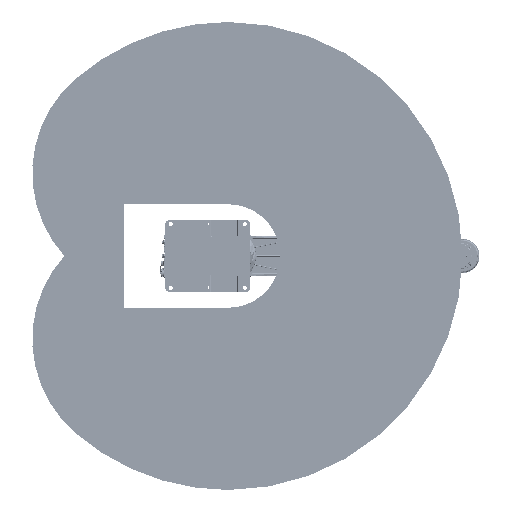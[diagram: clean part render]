
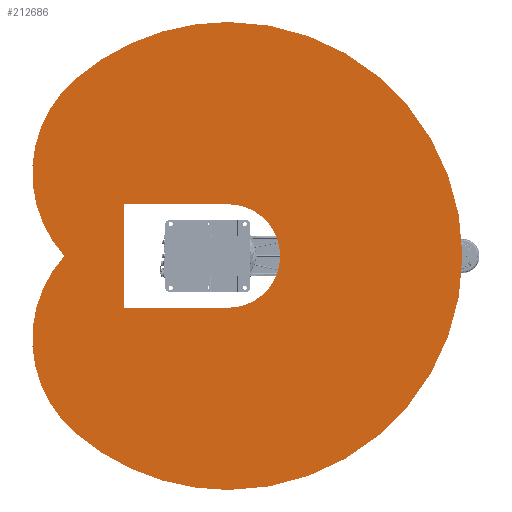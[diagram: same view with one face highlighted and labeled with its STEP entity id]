
A CAD part, front view. The second image highlights one B-rep face of the part: STEP entity #212686.
In plain terms, the highlighted planar face has unit normal (0, -1, 0).
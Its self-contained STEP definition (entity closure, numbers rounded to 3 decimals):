
#3238 = VERTEX_POINT ( 'NONE', #81069 ) ;
#4153 = CARTESIAN_POINT ( 'NONE',  ( -105.937, -92.101, 0. ) ) ;
#14752 = CARTESIAN_POINT ( 'NONE',  ( -368.36, -92.101, -301.884 ) ) ;
#17326 = CARTESIAN_POINT ( 'NONE',  ( -105.937, -92.101, 0. ) ) ;
#25404 = AXIS2_PLACEMENT_3D ( 'NONE', #65834, #229182, #89350 ) ;
#27630 = DIRECTION ( 'NONE',  ( 0., 0., 1. ) ) ;
#35055 = EDGE_CURVE ( 'NONE', #251455, #134189, #91767, .T. ) ;
#35699 = CARTESIAN_POINT ( 'NONE',  ( -105.937, -92.101, -187.789 ) ) ;
#36364 = VERTEX_POINT ( 'NONE', #61431 ) ;
#38213 = DIRECTION ( 'NONE',  ( 0., 0., 1. ) ) ;
#41614 = ORIENTED_EDGE ( 'NONE', *, *, #145350, .F. ) ;
#45319 = CARTESIAN_POINT ( 'NONE',  ( -368.36, -92.101, 301.884 ) ) ;
#47221 = VERTEX_POINT ( 'NONE', #273596 ) ;
#50716 = ORIENTED_EDGE ( 'NONE', *, *, #169808, .F. ) ;
#53095 = CARTESIAN_POINT ( 'NONE',  ( -663.587, -92.101, 641.503 ) ) ;
#53856 = CARTESIAN_POINT ( 'NONE',  ( -663.587, -92.101, -641.503 ) ) ;
#61431 = CARTESIAN_POINT ( 'NONE',  ( -702.076, -92.101, 0. ) ) ;
#61574 = ORIENTED_EDGE ( 'NONE', *, *, #35055, .F. ) ;
#64241 = DIRECTION ( 'NONE',  ( 0., 1., 0. ) ) ;
#65834 = CARTESIAN_POINT ( 'NONE',  ( -105.937, -92.101, 0. ) ) ;
#68774 = DIRECTION ( 'NONE',  ( 0., 0., 1. ) ) ;
#78492 = ORIENTED_EDGE ( 'NONE', *, *, #97746, .F. ) ;
#81069 = CARTESIAN_POINT ( 'NONE',  ( -105.937, -92.101, 187.789 ) ) ;
#83000 = EDGE_CURVE ( 'NONE', #3238, #116733, #153560, .T. ) ;
#83400 = CARTESIAN_POINT ( 'NONE',  ( -485.937, -92.101, 0. ) ) ;
#89350 = DIRECTION ( 'NONE',  ( 0., 0., 1. ) ) ;
#91767 = CIRCLE ( 'NONE', #132583, 850. ) ;
#97746 = EDGE_CURVE ( 'NONE', #276854, #116733, #270812, .T. ) ;
#99105 = DIRECTION ( 'NONE',  ( 1., 0., 0. ) ) ;
#101811 = EDGE_CURVE ( 'NONE', #36364, #251455, #258908, .T. ) ;
#109504 = VERTEX_POINT ( 'NONE', #287817 ) ;
#110178 = PLANE ( 'NONE',  #239970 ) ;
#114013 = CARTESIAN_POINT ( 'NONE',  ( -105.937, -92.101, 0. ) ) ;
#115540 = VECTOR ( 'NONE', #99105, 1000. ) ;
#116733 = VERTEX_POINT ( 'NONE', #35699 ) ;
#118112 = VERTEX_POINT ( 'NONE', #53856 ) ;
#118314 = FACE_OUTER_BOUND ( 'NONE', #170071, .T. ) ;
#121631 = ORIENTED_EDGE ( 'NONE', *, *, #132282, .T. ) ;
#122525 = CARTESIAN_POINT ( 'NONE',  ( -105.937, -92.101, 187.789 ) ) ;
#128548 = ORIENTED_EDGE ( 'NONE', *, *, #247022, .F. ) ;
#130524 = DIRECTION ( 'NONE',  ( 0., 1., 0. ) ) ;
#132282 = EDGE_CURVE ( 'NONE', #47221, #3238, #185100, .T. ) ;
#132583 = AXIS2_PLACEMENT_3D ( 'NONE', #4153, #167484, #27630 ) ;
#133769 = DIRECTION ( 'NONE',  ( 1., 0., 0. ) ) ;
#134189 = VERTEX_POINT ( 'NONE', #222882 ) ;
#137635 = DIRECTION ( 'NONE',  ( 0., 0., 1. ) ) ;
#138747 = EDGE_CURVE ( 'NONE', #276854, #47221, #230198, .T. ) ;
#142023 = ORIENTED_EDGE ( 'NONE', *, *, #138747, .T. ) ;
#145350 = EDGE_CURVE ( 'NONE', #109504, #118112, #291683, .T. ) ;
#153560 = CIRCLE ( 'NONE', #189515, 187.789 ) ;
#155126 = CIRCLE ( 'NONE', #241362, 450. ) ;
#167484 = DIRECTION ( 'NONE',  ( 0., 1., 0. ) ) ;
#169808 = EDGE_CURVE ( 'NONE', #134189, #109504, #209644, .T. ) ;
#170071 = EDGE_LOOP ( 'NONE', ( #61574, #219058, #128548, #41614, #50716 ) ) ;
#173044 = AXIS2_PLACEMENT_3D ( 'NONE', #270434, #130524, #293989 ) ;
#178105 = DIRECTION ( 'NONE',  ( 0., 1., 0. ) ) ;
#185100 = LINE ( 'NONE', #122525, #115540 ) ;
#189515 = AXIS2_PLACEMENT_3D ( 'NONE', #114013, #277504, #137635 ) ;
#208682 = DIRECTION ( 'NONE',  ( 0., 1., 0. ) ) ;
#208767 = VECTOR ( 'NONE', #133769, 1000. ) ;
#209644 = CIRCLE ( 'NONE', #25404, 850. ) ;
#212686 = ADVANCED_FACE ( 'NONE', ( #242607, #118314 ), #110178, .F. ) ;
#219058 = ORIENTED_EDGE ( 'NONE', *, *, #101811, .F. ) ;
#222882 = CARTESIAN_POINT ( 'NONE',  ( -105.937, -92.101, 850. ) ) ;
#224247 = ORIENTED_EDGE ( 'NONE', *, *, #83000, .T. ) ;
#227616 = DIRECTION ( 'NONE',  ( 0., 0., 1. ) ) ;
#229182 = DIRECTION ( 'NONE',  ( 0., 1., 0. ) ) ;
#230198 = LINE ( 'NONE', #83400, #285068 ) ;
#239970 = AXIS2_PLACEMENT_3D ( 'NONE', #17326, #64241, #227616 ) ;
#241362 = AXIS2_PLACEMENT_3D ( 'NONE', #14752, #178105, #38213 ) ;
#242607 = FACE_BOUND ( 'NONE', #290861, .T. ) ;
#246726 = DIRECTION ( 'NONE',  ( 0., 0., 1. ) ) ;
#247022 = EDGE_CURVE ( 'NONE', #118112, #36364, #155126, .T. ) ;
#251455 = VERTEX_POINT ( 'NONE', #53095 ) ;
#258908 = CIRCLE ( 'NONE', #278495, 450. ) ;
#270385 = CARTESIAN_POINT ( 'NONE',  ( -485.937, -92.101, -187.789 ) ) ;
#270434 = CARTESIAN_POINT ( 'NONE',  ( -105.937, -92.101, 0. ) ) ;
#270812 = LINE ( 'NONE', #273637, #208767 ) ;
#273596 = CARTESIAN_POINT ( 'NONE',  ( -485.937, -92.101, 187.789 ) ) ;
#273637 = CARTESIAN_POINT ( 'NONE',  ( -105.937, -92.101, -187.789 ) ) ;
#276854 = VERTEX_POINT ( 'NONE', #270385 ) ;
#277504 = DIRECTION ( 'NONE',  ( 0., 1., 0. ) ) ;
#278495 = AXIS2_PLACEMENT_3D ( 'NONE', #45319, #208682, #68774 ) ;
#285068 = VECTOR ( 'NONE', #246726, 1000. ) ;
#287817 = CARTESIAN_POINT ( 'NONE',  ( -105.937, -92.101, -850. ) ) ;
#290861 = EDGE_LOOP ( 'NONE', ( #224247, #78492, #142023, #121631 ) ) ;
#291683 = CIRCLE ( 'NONE', #173044, 850. ) ;
#293989 = DIRECTION ( 'NONE',  ( 0., 0., 1. ) ) ;
